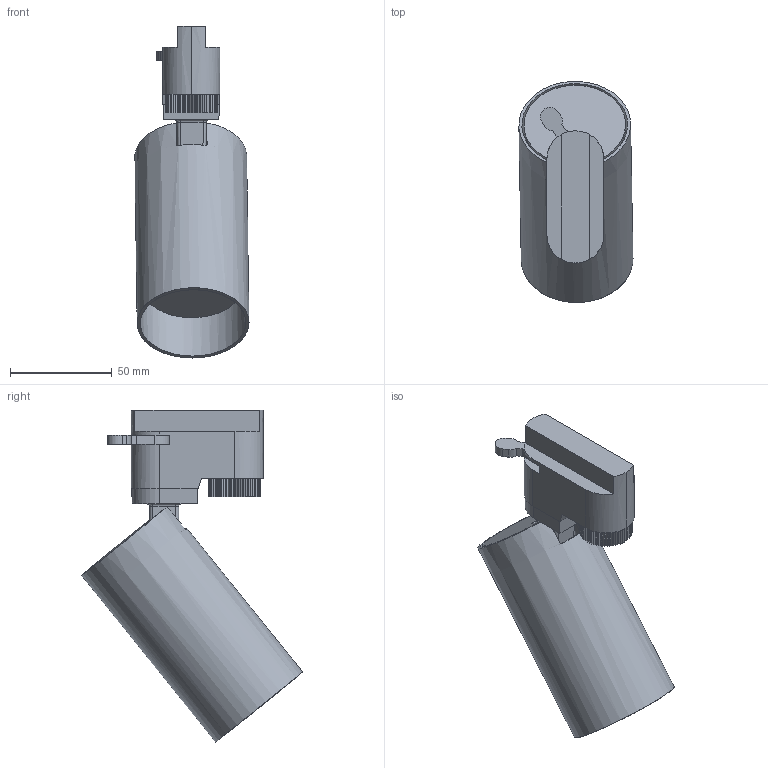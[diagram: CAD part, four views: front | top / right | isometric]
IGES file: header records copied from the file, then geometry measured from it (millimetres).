
Start section: SolidWorks IGES file using analytic representation for surfaces
Global section: file name: X:\PRODUKT\Modele 3D_WWW\_KOLEKCJE WWW\PROFILE SYSTEM\PROFILE-MONO-7581-7584-7583\PROFILE-MONO-7581-7584-7583.IGS; native system: SolidWorks 2021; preprocessor: SolidWorks 2021; author: gabriela.tworek; date: 220607.120330; units: millimetre
Bounding box: 56.08 x 108.65 x 163.19 mm (x, y, z)
Surface area: 59207.2 mm2 (no closed solid volume)
Topology: 0 solids, 0 shells, 198 faces, 1156 edges, 1152 vertices
Faces by surface type: bspline 170, revolution 28
